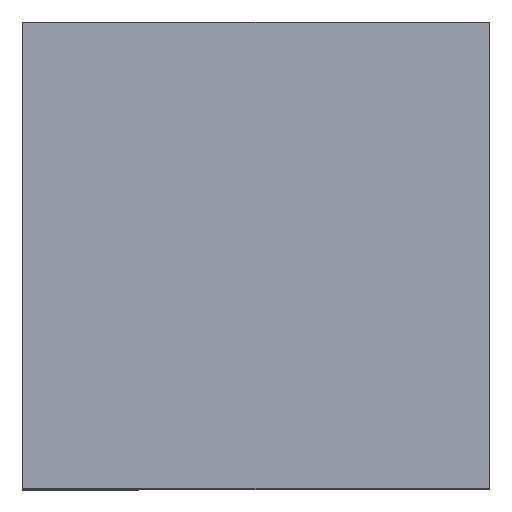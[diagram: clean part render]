
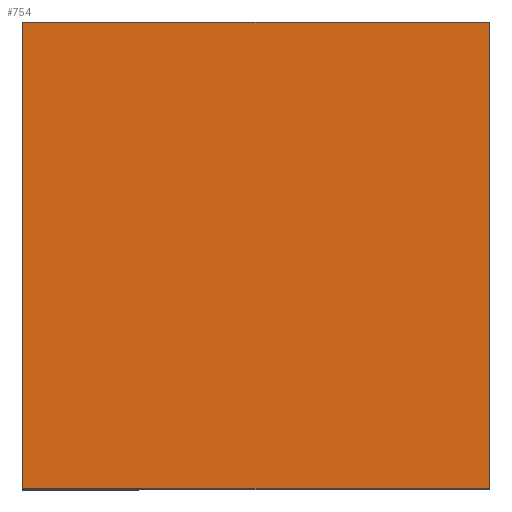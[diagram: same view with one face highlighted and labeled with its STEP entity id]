
A CAD part, top view. The second image highlights one B-rep face of the part: STEP entity #754.
In plain terms, the highlighted planar face has unit normal (0, 0, 1).
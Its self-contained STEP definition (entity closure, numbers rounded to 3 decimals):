
#8 = CARTESIAN_POINT ( 'NONE',  ( 0., 450., 450. ) ) ;
#60 = EDGE_CURVE ( 'NONE', #515, #894, #909, .T. ) ;
#117 = LINE ( 'NONE', #608, #324 ) ;
#136 = CARTESIAN_POINT ( 'NONE',  ( 0., 450., 450. ) ) ;
#162 = DIRECTION ( 'NONE',  ( 1., 0., 0. ) ) ;
#178 = CARTESIAN_POINT ( 'NONE',  ( 0., 0., 450. ) ) ;
#187 = CARTESIAN_POINT ( 'NONE',  ( -450., 450., 450. ) ) ;
#194 = CARTESIAN_POINT ( 'NONE',  ( 0., 0., 450. ) ) ;
#220 = VECTOR ( 'NONE', #622, 1000. ) ;
#249 = VECTOR ( 'NONE', #902, 1000. ) ;
#299 = DIRECTION ( 'NONE',  ( -1., 0., 0. ) ) ;
#324 = VECTOR ( 'NONE', #542, 1000. ) ;
#325 = DIRECTION ( 'NONE',  ( 0., 0., 1. ) ) ;
#341 = LINE ( 'NONE', #406, #249 ) ;
#345 = EDGE_CURVE ( 'NONE', #767, #894, #341, .T. ) ;
#361 = ORIENTED_EDGE ( 'NONE', *, *, #60, .T. ) ;
#406 = CARTESIAN_POINT ( 'NONE',  ( -450., 0., 450. ) ) ;
#447 = ORIENTED_EDGE ( 'NONE', *, *, #849, .T. ) ;
#515 = VERTEX_POINT ( 'NONE', #136 ) ;
#542 = DIRECTION ( 'NONE',  ( 0., 1., 0. ) ) ;
#583 = CARTESIAN_POINT ( 'NONE',  ( -450., 0., 450. ) ) ;
#608 = CARTESIAN_POINT ( 'NONE',  ( 0., 0., 450. ) ) ;
#622 = DIRECTION ( 'NONE',  ( -1., 0., 0. ) ) ;
#655 = FACE_OUTER_BOUND ( 'NONE', #785, .T. ) ;
#683 = CARTESIAN_POINT ( 'NONE',  ( 0., 0., 450. ) ) ;
#728 = LINE ( 'NONE', #194, #220 ) ;
#754 = ADVANCED_FACE ( 'NONE', ( #655 ), #789, .T. ) ;
#767 = VERTEX_POINT ( 'NONE', #583 ) ;
#769 = VECTOR ( 'NONE', #299, 1000. ) ;
#785 = EDGE_LOOP ( 'NONE', ( #447, #361, #807, #837 ) ) ;
#789 = PLANE ( 'NONE',  #892 ) ;
#807 = ORIENTED_EDGE ( 'NONE', *, *, #345, .F. ) ;
#837 = ORIENTED_EDGE ( 'NONE', *, *, #843, .F. ) ;
#843 = EDGE_CURVE ( 'NONE', #864, #767, #728, .T. ) ;
#849 = EDGE_CURVE ( 'NONE', #864, #515, #117, .T. ) ;
#864 = VERTEX_POINT ( 'NONE', #683 ) ;
#892 = AXIS2_PLACEMENT_3D ( 'NONE', #178, #325, #162 ) ;
#894 = VERTEX_POINT ( 'NONE', #187 ) ;
#902 = DIRECTION ( 'NONE',  ( 0., 1., 0. ) ) ;
#909 = LINE ( 'NONE', #8, #769 ) ;
